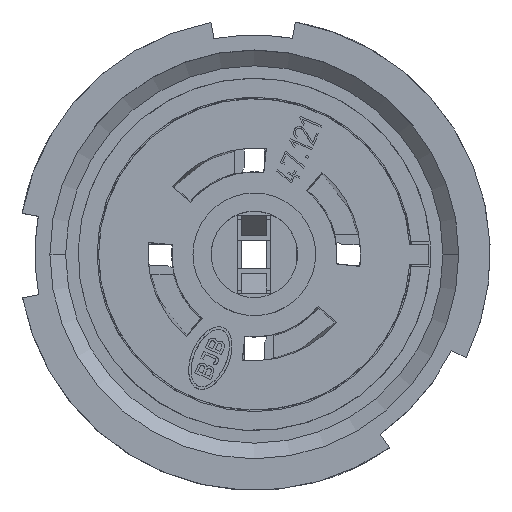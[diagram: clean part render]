
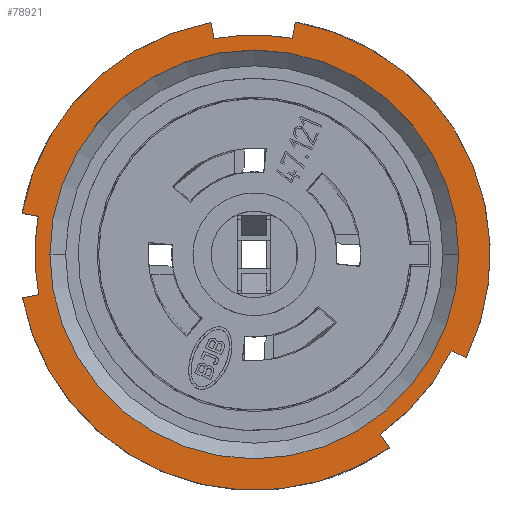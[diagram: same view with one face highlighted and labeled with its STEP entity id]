
A CAD part, top view. The second image highlights one B-rep face of the part: STEP entity #78921.
In plain terms, the highlighted planar face has unit normal (0, 0, 1).
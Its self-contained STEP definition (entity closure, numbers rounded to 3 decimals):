
#74846=CARTESIAN_POINT(' ',(8.001,-11.427,3.25));
#74847=VERTEX_POINT(' ',#74846);
#75121=CARTESIAN_POINT(' ',(12.538,-6.115,3.25));
#75122=VERTEX_POINT(' ',#75121);
#75136=CARTESIAN_POINT(' ',(0.,0.,3.25));
#75141=DIRECTION(' ',(-0.,0.,-1.));
#75146=DIRECTION(' ',(0.899,-0.438,0.));
#75151=AXIS2_PLACEMENT_3D(' ',#75136,#75141,#75146);
#75156=CIRCLE('',#75151,13.95);
#75161=EDGE_CURVE(' ',#75122,#74847,#75156,.T.);
#75431=CARTESIAN_POINT(' ',(8.604,-12.287,3.25));
#75432=VERTEX_POINT(' ',#75431);
#75446=CARTESIAN_POINT(' ',(0.,0.,3.25));
#75451=DIRECTION(' ',(0.,0.,-1.));
#75456=DIRECTION(' ',(0.574,-0.819,0.));
#75461=AXIS2_PLACEMENT_3D(' ',#75446,#75451,#75456);
#75466=CIRCLE('',#75461,15.);
#75471=CARTESIAN_POINT(' ',(-14.744,-2.759,3.25));
#75472=VERTEX_POINT(' ',#75471);
#75476=EDGE_CURVE(' ',#75432,#75472,#75466,.T.);
#75701=CARTESIAN_POINT(' ',(-13.712,-2.566,3.25));
#75702=VERTEX_POINT(' ',#75701);
#75726=CARTESIAN_POINT(' ',(-14.744,-2.759,3.25));
#75731=DIRECTION(' ',(0.983,0.184,0.));
#75736=VECTOR(' ',#75731,1.);
#75741=LINE('',#75726,#75736);
#75746=EDGE_CURVE(' ',#75472,#75702,#75741,.T.);
#75816=CARTESIAN_POINT(' ',(-13.738,2.422,3.25));
#75817=VERTEX_POINT(' ',#75816);
#76076=CARTESIAN_POINT(' ',(0.,0.,3.25));
#76081=DIRECTION(' ',(0.,0.,-1.));
#76086=DIRECTION(' ',(-0.983,-0.184,0.));
#76091=AXIS2_PLACEMENT_3D(' ',#76076,#76081,#76086);
#76096=CIRCLE('',#76091,13.95);
#76101=EDGE_CURVE(' ',#75702,#75817,#76096,.T.);
#76371=CARTESIAN_POINT(' ',(-14.772,2.605,3.25));
#76372=VERTEX_POINT(' ',#76371);
#76386=CARTESIAN_POINT(' ',(0.,0.,3.25));
#76391=DIRECTION(' ',(0.,-0.,-1.));
#76396=DIRECTION(' ',(-0.985,0.174,0.));
#76401=AXIS2_PLACEMENT_3D(' ',#76386,#76391,#76396);
#76406=CIRCLE('',#76401,15.);
#76411=CARTESIAN_POINT(' ',(-2.759,14.744,3.25));
#76412=VERTEX_POINT(' ',#76411);
#76416=EDGE_CURVE(' ',#76372,#76412,#76406,.T.);
#76631=CARTESIAN_POINT(' ',(-2.566,13.712,3.25));
#76636=DIRECTION(' ',(-0.184,0.983,0.));
#76641=VECTOR(' ',#76636,1.);
#76646=LINE('',#76631,#76641);
#76651=CARTESIAN_POINT(' ',(-2.566,13.712,3.25));
#76652=VERTEX_POINT(' ',#76651);
#76656=EDGE_CURVE(' ',#76652,#76412,#76646,.T.);
#76746=CARTESIAN_POINT(' ',(0.,0.,3.25));
#76751=DIRECTION(' ',(0.,0.,1.));
#76756=DIRECTION(' ',(0.174,0.985,0.));
#76761=AXIS2_PLACEMENT_3D(' ',#76746,#76751,#76756);
#76766=CIRCLE('',#76761,13.95);
#76771=CARTESIAN_POINT(' ',(2.422,13.738,3.25));
#76772=VERTEX_POINT(' ',#76771);
#76776=EDGE_CURVE(' ',#76772,#76652,#76766,.T.);
#77311=CARTESIAN_POINT(' ',(2.605,14.772,3.25));
#77312=VERTEX_POINT(' ',#77311);
#77326=CARTESIAN_POINT(' ',(0.,0.,3.25));
#77331=DIRECTION(' ',(-0.,-0.,-1.));
#77336=DIRECTION(' ',(0.174,0.985,0.));
#77341=AXIS2_PLACEMENT_3D(' ',#77326,#77331,#77336);
#77346=CIRCLE('',#77341,15.);
#77351=CARTESIAN_POINT(' ',(13.482,-6.576,3.25));
#77352=VERTEX_POINT(' ',#77351);
#77356=EDGE_CURVE(' ',#77312,#77352,#77346,.T.);
#77576=CARTESIAN_POINT(' ',(13.482,-6.576,3.25));
#77581=DIRECTION(' ',(-0.899,0.438,0.));
#77586=VECTOR(' ',#77581,1.);
#77591=LINE('',#77576,#77586);
#77596=EDGE_CURVE(' ',#77352,#75122,#77591,.T.);
#77976=CARTESIAN_POINT(' ',(8.001,-11.427,3.25));
#77981=DIRECTION(' ',(0.574,-0.819,0.));
#77986=VECTOR(' ',#77981,1.);
#77991=LINE('',#77976,#77986);
#77996=EDGE_CURVE(' ',#74847,#75432,#77991,.T.);
#78606=DIRECTION(' ',(0.,0.,1.));
#78611=CARTESIAN_POINT(' ',(-14.772,-15.344,3.25));
#78616=DIRECTION(' ',(1.,0.,-0.));
#78621=AXIS2_PLACEMENT_3D(' ',#78611,#78606,#78616);
#78626=PLANE('',#78621);
#78631=ORIENTED_EDGE(' ',*,*,#77356,.F.);
#78636=CARTESIAN_POINT(' ',(2.605,14.772,3.25));
#78641=DIRECTION(' ',(-0.174,-0.985,0.));
#78646=VECTOR(' ',#78641,1.);
#78651=LINE('',#78636,#78646);
#78656=EDGE_CURVE(' ',#77312,#76772,#78651,.T.);
#78661=ORIENTED_EDGE(' ',*,*,#78656,.T.);
#78666=ORIENTED_EDGE(' ',*,*,#76776,.T.);
#78671=ORIENTED_EDGE(' ',*,*,#76656,.T.);
#78676=ORIENTED_EDGE(' ',*,*,#76416,.F.);
#78681=CARTESIAN_POINT(' ',(-13.738,2.422,3.25));
#78686=DIRECTION(' ',(-0.985,0.174,0.));
#78691=VECTOR(' ',#78686,1.);
#78696=LINE('',#78681,#78691);
#78701=EDGE_CURVE(' ',#75817,#76372,#78696,.T.);
#78706=ORIENTED_EDGE(' ',*,*,#78701,.F.);
#78711=ORIENTED_EDGE(' ',*,*,#76101,.F.);
#78716=ORIENTED_EDGE(' ',*,*,#75746,.F.);
#78721=ORIENTED_EDGE(' ',*,*,#75476,.F.);
#78726=ORIENTED_EDGE(' ',*,*,#77996,.F.);
#78731=ORIENTED_EDGE(' ',*,*,#75161,.F.);
#78736=ORIENTED_EDGE(' ',*,*,#77596,.F.);
#78741=EDGE_LOOP(' ',(#78631,#78661,#78666,#78671,#78676,#78706,#78711,#78716,#78721,#78726,#78731,#78736));
#78746=FACE_OUTER_BOUND(' ',#78741,.T.);
#78751=CARTESIAN_POINT(' ',(0.,0.,3.25));
#78756=DIRECTION(' ',(-0.,-0.,-1.));
#78761=DIRECTION(' ',(0.,1.,0.));
#78766=AXIS2_PLACEMENT_3D(' ',#78751,#78756,#78761);
#78771=CIRCLE('',#78766,13.);
#78776=CARTESIAN_POINT(' ',(0.,13.,3.25));
#78777=VERTEX_POINT(' ',#78776);
#78781=CARTESIAN_POINT(' ',(13.,-0.001,3.25));
#78782=VERTEX_POINT(' ',#78781);
#78786=EDGE_CURVE(' ',#78777,#78782,#78771,.T.);
#78791=ORIENTED_EDGE(' ',*,*,#78786,.T.);
#78796=CARTESIAN_POINT(' ',(0.,0.,3.25));
#78801=DIRECTION(' ',(-0.,0.,-1.));
#78806=DIRECTION(' ',(1.,0.,0.));
#78811=AXIS2_PLACEMENT_3D(' ',#78796,#78801,#78806);
#78816=CIRCLE('',#78811,13.);
#78821=CARTESIAN_POINT(' ',(0.,-13.,3.25));
#78822=VERTEX_POINT(' ',#78821);
#78826=EDGE_CURVE(' ',#78782,#78822,#78816,.T.);
#78831=ORIENTED_EDGE(' ',*,*,#78826,.T.);
#78836=CARTESIAN_POINT(' ',(0.,0.,3.25));
#78841=DIRECTION(' ',(0.,0.,-1.));
#78846=DIRECTION(' ',(0.,-1.,0.));
#78851=AXIS2_PLACEMENT_3D(' ',#78836,#78841,#78846);
#78856=CIRCLE('',#78851,13.);
#78861=CARTESIAN_POINT(' ',(-13.,0.,3.25));
#78862=VERTEX_POINT(' ',#78861);
#78866=EDGE_CURVE(' ',#78822,#78862,#78856,.T.);
#78871=ORIENTED_EDGE(' ',*,*,#78866,.T.);
#78876=CARTESIAN_POINT(' ',(0.,0.,3.25));
#78881=DIRECTION(' ',(0.,-0.,-1.));
#78886=DIRECTION(' ',(-1.,0.,0.));
#78891=AXIS2_PLACEMENT_3D(' ',#78876,#78881,#78886);
#78896=CIRCLE('',#78891,13.);
#78901=EDGE_CURVE(' ',#78862,#78777,#78896,.T.);
#78906=ORIENTED_EDGE(' ',*,*,#78901,.T.);
#78911=EDGE_LOOP(' ',(#78791,#78831,#78871,#78906));
#78916=FACE_BOUND(' ',#78911,.T.);
#78921=ADVANCED_FACE('',(#78746,#78916),#78626,.T.);
